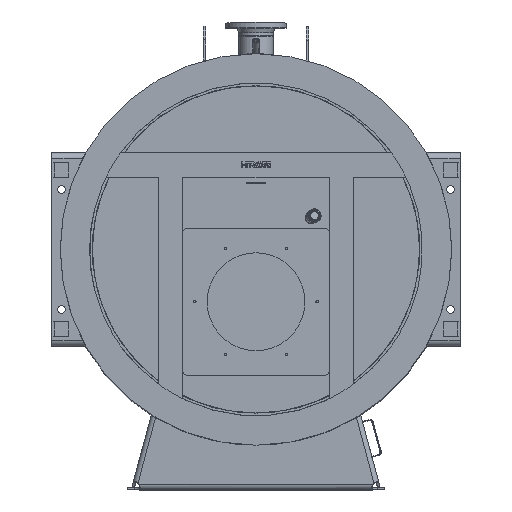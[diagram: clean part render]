
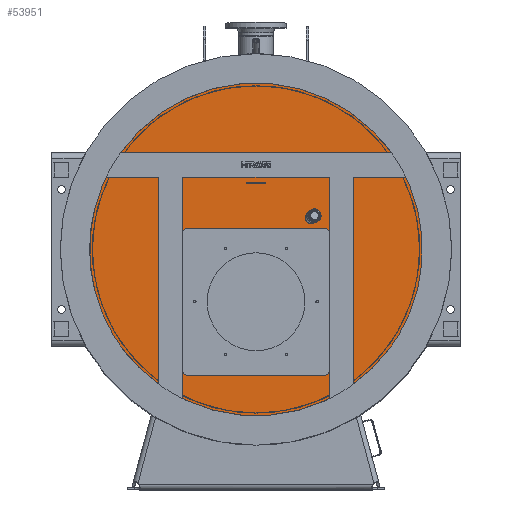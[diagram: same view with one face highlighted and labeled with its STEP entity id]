
A CAD part, top view. The second image highlights one B-rep face of the part: STEP entity #53951.
In plain terms, the highlighted planar face has unit normal (0, 0, 1).
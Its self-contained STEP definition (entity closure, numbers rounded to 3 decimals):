
#53620=CARTESIAN_POINT('',(630.377,-255.,287.));
#53621=VERTEX_POINT('',#53620);
#53639=CARTESIAN_POINT('',(630.377,255.,287.));
#53640=VERTEX_POINT('',#53639);
#53647=CARTESIAN_POINT('',(0.,0.,287.));
#53648=DIRECTION('',(-0.,-0.,1.));
#53649=DIRECTION('',(-1.,0.,0.));
#53650=AXIS2_PLACEMENT_3D('',#53647,#53648,#53649);
#53651=CIRCLE('',#53650,680.);
#53652=EDGE_CURVE('',#53621,#53640,#53651,.T.);
#53664=CARTESIAN_POINT('',(-680.,-0.,287.));
#53665=VERTEX_POINT('',#53664);
#53672=CARTESIAN_POINT('',(-630.377,255.,287.));
#53673=VERTEX_POINT('',#53672);
#53674=CARTESIAN_POINT('',(0.,0.,287.));
#53675=DIRECTION('',(-0.,-0.,1.));
#53676=DIRECTION('',(-1.,0.,0.));
#53677=AXIS2_PLACEMENT_3D('',#53674,#53675,#53676);
#53678=CIRCLE('',#53677,680.);
#53679=EDGE_CURVE('',#53673,#53665,#53678,.T.);
#53704=CARTESIAN_POINT('',(553.512,395.,287.));
#53705=VERTEX_POINT('',#53704);
#53706=CARTESIAN_POINT('',(-553.512,395.,287.));
#53707=VERTEX_POINT('',#53706);
#53708=CARTESIAN_POINT('',(0.,0.,287.));
#53709=DIRECTION('',(-0.,-0.,1.));
#53710=DIRECTION('',(-1.,0.,0.));
#53711=AXIS2_PLACEMENT_3D('',#53708,#53709,#53710);
#53712=CIRCLE('',#53711,680.);
#53713=EDGE_CURVE('',#53705,#53707,#53712,.T.);
#53757=CARTESIAN_POINT('',(553.512,-395.,287.));
#53758=VERTEX_POINT('',#53757);
#53765=CARTESIAN_POINT('',(-553.512,-395.,287.));
#53766=VERTEX_POINT('',#53765);
#53767=CARTESIAN_POINT('',(0.,0.,287.));
#53768=DIRECTION('',(-0.,-0.,1.));
#53769=DIRECTION('',(-1.,0.,0.));
#53770=AXIS2_PLACEMENT_3D('',#53767,#53768,#53769);
#53771=CIRCLE('',#53770,680.);
#53772=EDGE_CURVE('',#53766,#53758,#53771,.T.);
#53783=CARTESIAN_POINT('',(125.,-107.,287.));
#53784=DIRECTION('',(0.,0.,1.));
#53785=DIRECTION('',(1.,0.,0.));
#53786=AXIS2_PLACEMENT_3D('',#53783,#53784,#53785);
#53787=PLANE('',#53786);
#53788=ORIENTED_EDGE('',*,*,#53772,.T.);
#53789=CARTESIAN_POINT('',(553.337,-395.,287.));
#53790=VERTEX_POINT('',#53789);
#53791=CARTESIAN_POINT('',(553.512,-395.,287.));
#53792=DIRECTION('',(-1.,-0.,0.));
#53793=VECTOR('',#53792,0.175);
#53794=LINE('',#53791,#53793);
#53795=EDGE_CURVE('',#53758,#53790,#53794,.T.);
#53796=ORIENTED_EDGE('',*,*,#53795,.T.);
#53797=CARTESIAN_POINT('',(-19.764,11.567,287.));
#53798=DIRECTION('',(-0.,-0.,1.));
#53799=DIRECTION('',(-1.,0.,0.));
#53800=AXIS2_PLACEMENT_3D('',#53797,#53798,#53799);
#53801=CIRCLE('',#53800,702.667);
#53802=EDGE_CURVE('',#53790,#53621,#53801,.T.);
#53803=ORIENTED_EDGE('',*,*,#53802,.T.);
#53804=ORIENTED_EDGE('',*,*,#53652,.T.);
#53805=CARTESIAN_POINT('',(553.337,395.,287.));
#53806=VERTEX_POINT('',#53805);
#53807=CARTESIAN_POINT('',(-19.764,-11.567,287.));
#53808=DIRECTION('',(0.,0.,-1.));
#53809=DIRECTION('',(-1.,0.,0.));
#53810=AXIS2_PLACEMENT_3D('',#53807,#53808,#53809);
#53811=CIRCLE('',#53810,702.667);
#53812=EDGE_CURVE('',#53806,#53640,#53811,.T.);
#53813=ORIENTED_EDGE('',*,*,#53812,.F.);
#53814=CARTESIAN_POINT('',(553.512,395.,287.));
#53815=DIRECTION('',(-1.,-0.,0.));
#53816=VECTOR('',#53815,0.175);
#53817=LINE('',#53814,#53816);
#53818=EDGE_CURVE('',#53705,#53806,#53817,.T.);
#53819=ORIENTED_EDGE('',*,*,#53818,.F.);
#53820=ORIENTED_EDGE('',*,*,#53713,.T.);
#53821=CARTESIAN_POINT('',(-553.337,395.,287.));
#53822=VERTEX_POINT('',#53821);
#53823=CARTESIAN_POINT('',(-553.512,395.,287.));
#53824=DIRECTION('',(1.,0.,-0.));
#53825=VECTOR('',#53824,0.175);
#53826=LINE('',#53823,#53825);
#53827=EDGE_CURVE('',#53707,#53822,#53826,.T.);
#53828=ORIENTED_EDGE('',*,*,#53827,.T.);
#53829=CARTESIAN_POINT('',(19.764,-11.567,287.));
#53830=DIRECTION('',(-0.,-0.,1.));
#53831=DIRECTION('',(-1.,0.,0.));
#53832=AXIS2_PLACEMENT_3D('',#53829,#53830,#53831);
#53833=CIRCLE('',#53832,702.667);
#53834=EDGE_CURVE('',#53822,#53673,#53833,.T.);
#53835=ORIENTED_EDGE('',*,*,#53834,.T.);
#53836=ORIENTED_EDGE('',*,*,#53679,.T.);
#53837=CARTESIAN_POINT('',(-630.377,-255.,287.));
#53838=VERTEX_POINT('',#53837);
#53839=CARTESIAN_POINT('',(0.,0.,287.));
#53840=DIRECTION('',(-0.,-0.,1.));
#53841=DIRECTION('',(-1.,0.,0.));
#53842=AXIS2_PLACEMENT_3D('',#53839,#53840,#53841);
#53843=CIRCLE('',#53842,680.);
#53844=EDGE_CURVE('',#53665,#53838,#53843,.T.);
#53845=ORIENTED_EDGE('',*,*,#53844,.T.);
#53846=CARTESIAN_POINT('',(-553.337,-395.,287.));
#53847=VERTEX_POINT('',#53846);
#53848=CARTESIAN_POINT('',(19.764,11.567,287.));
#53849=DIRECTION('',(0.,0.,-1.));
#53850=DIRECTION('',(-1.,0.,0.));
#53851=AXIS2_PLACEMENT_3D('',#53848,#53849,#53850);
#53852=CIRCLE('',#53851,702.667);
#53853=EDGE_CURVE('',#53847,#53838,#53852,.T.);
#53854=ORIENTED_EDGE('',*,*,#53853,.F.);
#53855=CARTESIAN_POINT('',(-553.512,-395.,287.));
#53856=DIRECTION('',(1.,0.,-0.));
#53857=VECTOR('',#53856,0.175);
#53858=LINE('',#53855,#53857);
#53859=EDGE_CURVE('',#53766,#53847,#53858,.T.);
#53860=ORIENTED_EDGE('',*,*,#53859,.F.);
#53861=EDGE_LOOP('',(#53788,#53796,#53803,#53804,#53813,#53819,#53820,#53828,#53835,#53836,#53845,#53854,#53860));
#53862=FACE_BOUND('',#53861,.T.);
#53863=CARTESIAN_POINT('',(239.,-214.,287.));
#53864=VERTEX_POINT('',#53863);
#53865=CARTESIAN_POINT('',(250.,-214.,287.));
#53866=DIRECTION('',(-0.,-0.,1.));
#53867=DIRECTION('',(-1.,0.,0.));
#53868=AXIS2_PLACEMENT_3D('',#53865,#53866,#53867);
#53869=CIRCLE('',#53868,11.);
#53870=EDGE_CURVE('',#53864,#53864,#53869,.T.);
#53871=ORIENTED_EDGE('',*,*,#53870,.F.);
#53872=EDGE_LOOP('',(#53871));
#53873=FACE_BOUND('',#53872,.T.);
#53874=CARTESIAN_POINT('',(202.667,130.,287.));
#53875=VERTEX_POINT('',#53874);
#53876=CARTESIAN_POINT('',(225.167,130.,287.));
#53877=DIRECTION('',(-0.,-0.,1.));
#53878=DIRECTION('',(-1.,0.,0.));
#53879=AXIS2_PLACEMENT_3D('',#53876,#53877,#53878);
#53880=CIRCLE('',#53879,22.5);
#53881=EDGE_CURVE('',#53875,#53875,#53880,.T.);
#53882=ORIENTED_EDGE('',*,*,#53881,.F.);
#53883=EDGE_LOOP('',(#53882));
#53884=FACE_BOUND('',#53883,.T.);
#53885=CARTESIAN_POINT('',(114.,2.506,287.));
#53886=VERTEX_POINT('',#53885);
#53887=CARTESIAN_POINT('',(125.,2.506,287.));
#53888=DIRECTION('',(-0.,-0.,1.));
#53889=DIRECTION('',(-1.,0.,0.));
#53890=AXIS2_PLACEMENT_3D('',#53887,#53888,#53889);
#53891=CIRCLE('',#53890,11.);
#53892=EDGE_CURVE('',#53886,#53886,#53891,.T.);
#53893=ORIENTED_EDGE('',*,*,#53892,.F.);
#53894=EDGE_LOOP('',(#53893));
#53895=FACE_BOUND('',#53894,.T.);
#53896=CARTESIAN_POINT('',(114.,-430.506,287.));
#53897=VERTEX_POINT('',#53896);
#53898=CARTESIAN_POINT('',(125.,-430.506,287.));
#53899=DIRECTION('',(-0.,-0.,1.));
#53900=DIRECTION('',(-1.,0.,0.));
#53901=AXIS2_PLACEMENT_3D('',#53898,#53899,#53900);
#53902=CIRCLE('',#53901,11.);
#53903=EDGE_CURVE('',#53897,#53897,#53902,.T.);
#53904=ORIENTED_EDGE('',*,*,#53903,.F.);
#53905=EDGE_LOOP('',(#53904));
#53906=FACE_BOUND('',#53905,.T.);
#53907=CARTESIAN_POINT('',(-136.,-430.506,287.));
#53908=VERTEX_POINT('',#53907);
#53909=CARTESIAN_POINT('',(-125.,-430.506,287.));
#53910=DIRECTION('',(-0.,-0.,1.));
#53911=DIRECTION('',(-1.,0.,0.));
#53912=AXIS2_PLACEMENT_3D('',#53909,#53910,#53911);
#53913=CIRCLE('',#53912,11.);
#53914=EDGE_CURVE('',#53908,#53908,#53913,.T.);
#53915=ORIENTED_EDGE('',*,*,#53914,.F.);
#53916=EDGE_LOOP('',(#53915));
#53917=FACE_BOUND('',#53916,.T.);
#53918=CARTESIAN_POINT('',(-136.,2.506,287.));
#53919=VERTEX_POINT('',#53918);
#53920=CARTESIAN_POINT('',(-125.,2.506,287.));
#53921=DIRECTION('',(-0.,-0.,1.));
#53922=DIRECTION('',(-1.,0.,0.));
#53923=AXIS2_PLACEMENT_3D('',#53920,#53921,#53922);
#53924=CIRCLE('',#53923,11.);
#53925=EDGE_CURVE('',#53919,#53919,#53924,.T.);
#53926=ORIENTED_EDGE('',*,*,#53925,.F.);
#53927=EDGE_LOOP('',(#53926));
#53928=FACE_BOUND('',#53927,.T.);
#53929=CARTESIAN_POINT('',(-205.,-214.,287.));
#53930=VERTEX_POINT('',#53929);
#53931=CARTESIAN_POINT('',(0.,-214.,287.));
#53932=DIRECTION('',(-0.,-0.,1.));
#53933=DIRECTION('',(-1.,0.,0.));
#53934=AXIS2_PLACEMENT_3D('',#53931,#53932,#53933);
#53935=CIRCLE('',#53934,205.);
#53936=EDGE_CURVE('',#53930,#53930,#53935,.T.);
#53937=ORIENTED_EDGE('',*,*,#53936,.F.);
#53938=EDGE_LOOP('',(#53937));
#53939=FACE_BOUND('',#53938,.T.);
#53940=CARTESIAN_POINT('',(-261.,-214.,287.));
#53941=VERTEX_POINT('',#53940);
#53942=CARTESIAN_POINT('',(-250.,-214.,287.));
#53943=DIRECTION('',(-0.,-0.,1.));
#53944=DIRECTION('',(-1.,0.,0.));
#53945=AXIS2_PLACEMENT_3D('',#53942,#53943,#53944);
#53946=CIRCLE('',#53945,11.);
#53947=EDGE_CURVE('',#53941,#53941,#53946,.T.);
#53948=ORIENTED_EDGE('',*,*,#53947,.F.);
#53949=EDGE_LOOP('',(#53948));
#53950=FACE_BOUND('',#53949,.T.);
#53951=ADVANCED_FACE('',(#53862,#53873,#53884,#53895,#53906,#53917,#53928,#53939,#53950),#53787,.T.);
